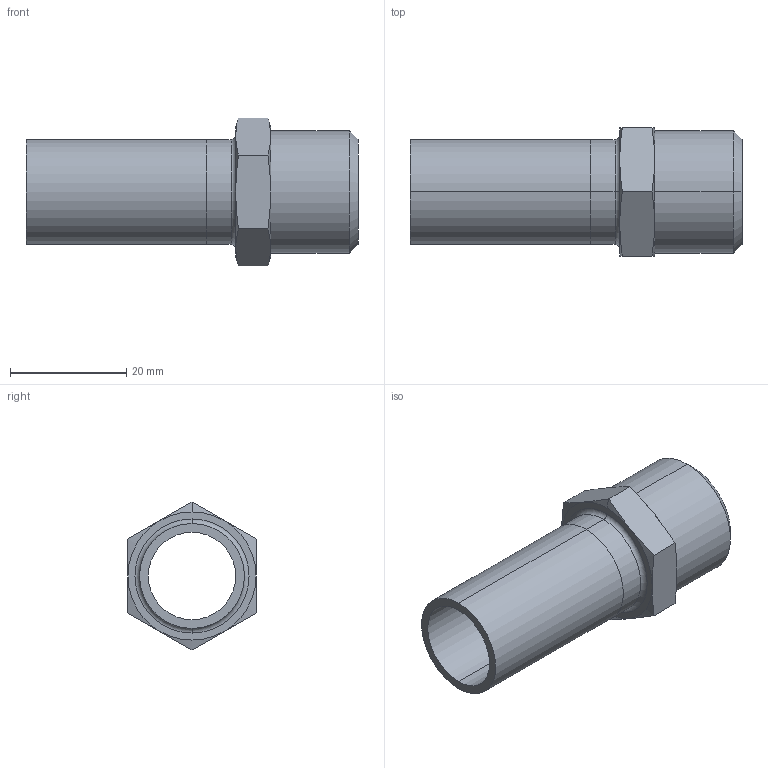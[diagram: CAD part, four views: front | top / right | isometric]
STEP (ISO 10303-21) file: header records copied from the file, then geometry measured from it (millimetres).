
FILE_DESCRIPTION (( 'STEP AP203' ), '1' );
FILE_NAME ('GDA6363.STEP', '2019-07-03T06:06:22', ( '' ), ( '' ), 'SwSTEP 2.0', 'SolidWorks 2015', '' );
FILE_SCHEMA (( 'CONFIG_CONTROL_DESIGN' ));
Length unit declared in the file: millimetre
Products named in the file (3): OD18｡ﾁ0.5; 眻奪18; GDA6363
Assembly tree (2 placements, depth 2):
  GDA6363
    OD18｡ﾁ0.5
    眻奪18
Bounding box: 57 x 22 x 25.4 mm (x, y, z)
Volume: 6256.4 mm3; surface area: 6754.2 mm2
Topology: 2 solids, 2 shells, 44 faces, 92 edges, 54 vertices
Faces by surface type: cone 18, cylinder 12, plane 12, torus 2
Entity records: 1549 total; most frequent: CARTESIAN_POINT 315, DIRECTION 210, ORIENTED_EDGE 184, AXIS2_PLACEMENT_3D 93, EDGE_CURVE 92, VERTEX_POINT 54, EDGE_LOOP 50, FACE_OUTER_BOUND 44
